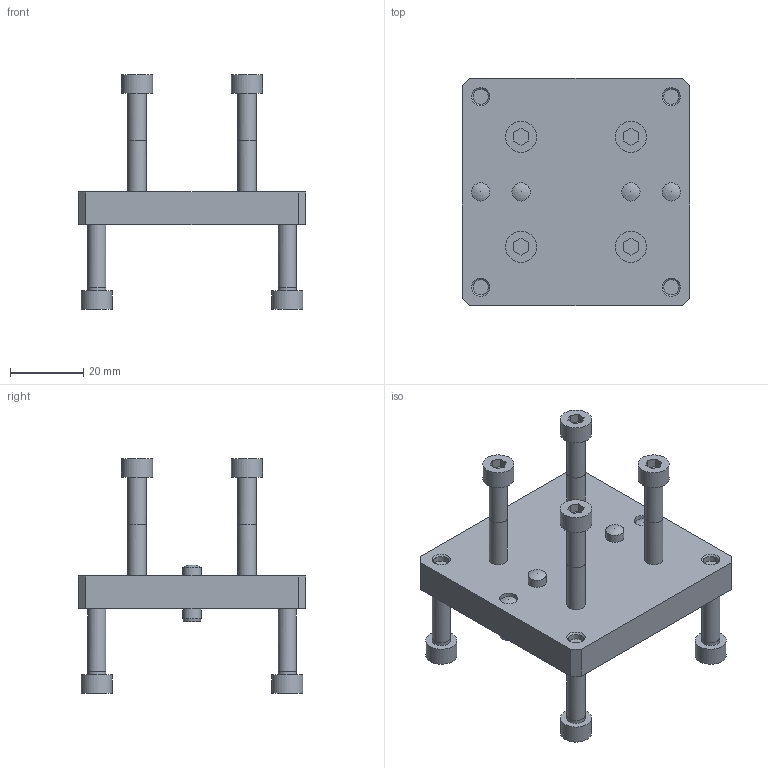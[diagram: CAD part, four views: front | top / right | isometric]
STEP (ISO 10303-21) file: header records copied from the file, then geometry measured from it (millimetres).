
FILE_DESCRIPTION( ( 'STEP AP214' ), '1' );
FILE_NAME( 'U:/Etudes/Top Solid/BIBLIO 3D AVM/STEP/N_ELECTRIQUE/Linéaires/Accessoires/8319114.step', '2006-07-05T09:23:00', ( ' ' ), ( ' ' ), 'XStep 1.0', ' ', ' ' );
FILE_SCHEMA( ( 'automotive_design' ) );
Length unit declared in the file: metre
Products named in the file (1): 1
Bounding box: 62 x 62 x 64 mm (x, y, z)
Volume: 40085 mm3; surface area: 15035 mm2
Topology: 1 solids, 3 shells, 150 faces, 343 edges, 231 vertices
Faces by surface type: plane 94, cylinder 40, cone 12, bspline 4
Full cylindrical faces by diameter (mm): 4.134 x8, 5 x24, 8.5 x8
Entity records: 5200 total; most frequent: CARTESIAN_POINT 975, DIRECTION 614, ORIENTED_EDGE 504, EDGE_CURVE 252, EDGE_LOOP 242, AXIS2_PLACEMENT_3D 223, VERTEX_POINT 200, FACE_OUTER_BOUND 190
